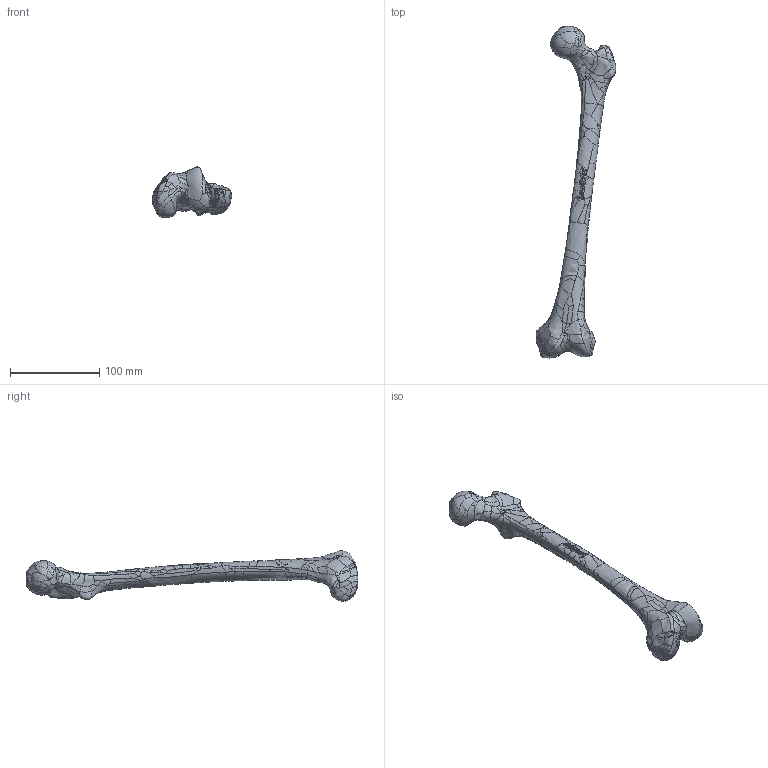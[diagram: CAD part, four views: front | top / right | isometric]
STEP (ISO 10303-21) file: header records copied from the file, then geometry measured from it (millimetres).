
FILE_DESCRIPTION (( 'STEP AP203' ), '1' );
FILE_NAME ('1120-5.STEP', '2025-05-26T20:14:03', ( '' ), ( '' ), 'SwSTEP 2.0', 'SolidWorks 2024', '' );
FILE_SCHEMA (( 'CONFIG_CONTROL_DESIGN' ));
Products named in the file (1): 1120-5
Bounding box: 89.18 x 372.34 x 56.58 mm (x, y, z)
Volume: 256304.6 mm3; surface area: 39486.7 mm2
Topology: 1 solids, 1 shells, 610 faces, 1569 edges, 967 vertices
Faces by surface type: bspline 610
Entity records: 1090763 total; most frequent: CARTESIAN_POINT 1080984, ORIENTED_EDGE 3138, B_SPLINE_CURVE_WITH_KNOTS 1569, EDGE_CURVE 1569, VERTEX_POINT 967, EDGE_LOOP 616, ADVANCED_FACE 610, FACE_OUTER_BOUND 610
